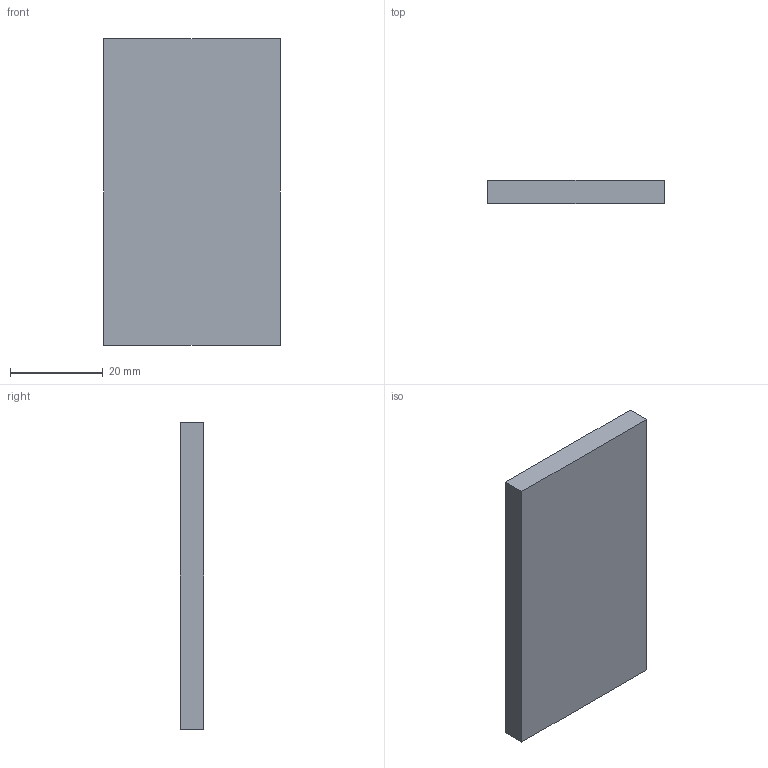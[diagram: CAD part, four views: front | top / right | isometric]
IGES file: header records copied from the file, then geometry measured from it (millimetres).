
Start section: SolidWorks IGES file using analytic representation for surfaces
Global section: file name: C:\Users\AndreBernot\Downloads\K-RACER-L_3D_SW\K-RACER-L_3D_SW\Aileron RACER-L.IGS; native system: SolidWorks 2015; preprocessor: SolidWorks 2015; author: AndreBernot; date: 170922.150517; units: millimetre
Bounding box: 38 x 5 x 66 mm (x, y, z)
Surface area: 6056 mm2 (no closed solid volume)
Topology: 0 solids, 0 shells, 6 faces, 24 edges, 24 vertices
Faces by surface type: bspline 6
